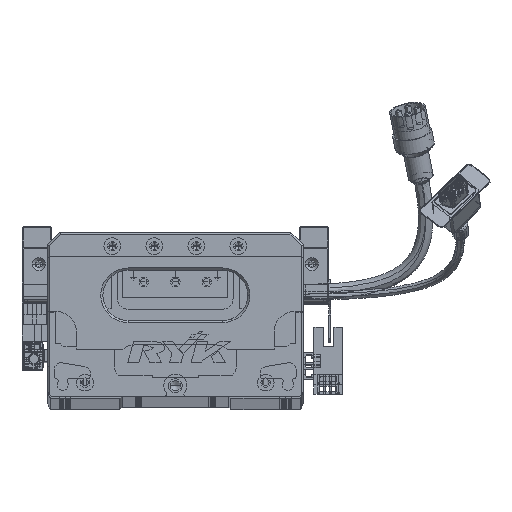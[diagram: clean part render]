
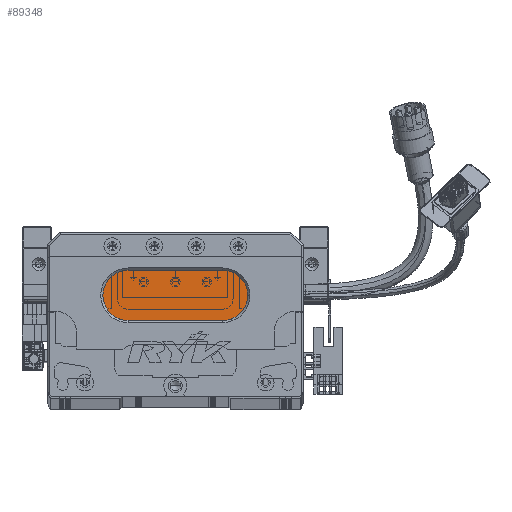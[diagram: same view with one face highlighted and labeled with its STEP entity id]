
A CAD part, top view. The second image highlights one B-rep face of the part: STEP entity #89348.
In plain terms, the highlighted planar face has unit normal (0, 0, 1) as drawn and (0, 0, -1) by its records, which use the part's own axes.
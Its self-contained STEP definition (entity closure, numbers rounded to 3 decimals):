
#5795 = CARTESIAN_POINT ( 'NONE',  ( 83.5, 60., 13. ) ) ;
#10349 = EDGE_CURVE ( 'NONE', #84270, #45431, #19674, .T. ) ;
#10850 = AXIS2_PLACEMENT_3D ( 'NONE', #23715, #74340, #21923 ) ;
#15604 = CARTESIAN_POINT ( 'NONE',  ( 38.5, 48., 13. ) ) ;
#16642 = VERTEX_POINT ( 'NONE', #21181 ) ;
#19674 = LINE ( 'NONE', #31829, #103506 ) ;
#21181 = CARTESIAN_POINT ( 'NONE',  ( 83.5, 36., 13. ) ) ;
#21923 = DIRECTION ( 'NONE',  ( -1., 0., 0. ) ) ;
#23715 = CARTESIAN_POINT ( 'NONE',  ( 83.5, 48., 13. ) ) ;
#24860 = VERTEX_POINT ( 'NONE', #42463 ) ;
#31184 = ORIENTED_EDGE ( 'NONE', *, *, #118141, .T. ) ;
#31393 = VERTEX_POINT ( 'NONE', #43996 ) ;
#31482 = CIRCLE ( 'NONE', #117341, 12. ) ;
#31829 = CARTESIAN_POINT ( 'NONE',  ( 83.5, 60., 13. ) ) ;
#34026 = CIRCLE ( 'NONE', #114313, 12. ) ;
#34674 = DIRECTION ( 'NONE',  ( -1., 0., 0. ) ) ;
#41848 = ORIENTED_EDGE ( 'NONE', *, *, #88044, .T. ) ;
#42463 = CARTESIAN_POINT ( 'NONE',  ( 38.5, 36., 13. ) ) ;
#43996 = CARTESIAN_POINT ( 'NONE',  ( 26.5, 48., 13. ) ) ;
#45431 = VERTEX_POINT ( 'NONE', #5795 ) ;
#47420 = EDGE_CURVE ( 'NONE', #16642, #24860, #59767, .T. ) ;
#52247 = CARTESIAN_POINT ( 'NONE',  ( 38.5, 48., 13. ) ) ;
#59767 = LINE ( 'NONE', #119638, #127146 ) ;
#61262 = ORIENTED_EDGE ( 'NONE', *, *, #47420, .T. ) ;
#74340 = DIRECTION ( 'NONE',  ( 0., 0., -1. ) ) ;
#81817 = DIRECTION ( 'NONE',  ( -1., 0., 0. ) ) ;
#83657 = EDGE_CURVE ( 'NONE', #31393, #84270, #34026, .T. ) ;
#84270 = VERTEX_POINT ( 'NONE', #86479 ) ;
#85175 = EDGE_LOOP ( 'NONE', ( #41848, #61262, #31184, #127079, #123483 ) ) ;
#86479 = CARTESIAN_POINT ( 'NONE',  ( 38.5, 60., 13. ) ) ;
#86704 = PLANE ( 'NONE',  #10850 ) ;
#88044 = EDGE_CURVE ( 'NONE', #45431, #16642, #31482, .T. ) ;
#89166 = DIRECTION ( 'NONE',  ( -1., 0., 0. ) ) ;
#89348 = ADVANCED_FACE ( 'NONE', ( #136422 ), #86704, .T. ) ;
#91271 = AXIS2_PLACEMENT_3D ( 'NONE', #52247, #94925, #135806 ) ;
#94925 = DIRECTION ( 'NONE',  ( 0., 0., -1. ) ) ;
#98813 = DIRECTION ( 'NONE',  ( 0., 0., -1. ) ) ;
#103506 = VECTOR ( 'NONE', #114949, 1000. ) ;
#113936 = CARTESIAN_POINT ( 'NONE',  ( 83.5, 48., 13. ) ) ;
#114313 = AXIS2_PLACEMENT_3D ( 'NONE', #15604, #98813, #89166 ) ;
#114949 = DIRECTION ( 'NONE',  ( 1., 0., 0. ) ) ;
#117341 = AXIS2_PLACEMENT_3D ( 'NONE', #113936, #134651, #81817 ) ;
#118141 = EDGE_CURVE ( 'NONE', #24860, #31393, #135844, .T. ) ;
#119638 = CARTESIAN_POINT ( 'NONE',  ( 83.5, 36., 13. ) ) ;
#123483 = ORIENTED_EDGE ( 'NONE', *, *, #10349, .T. ) ;
#127079 = ORIENTED_EDGE ( 'NONE', *, *, #83657, .T. ) ;
#127146 = VECTOR ( 'NONE', #34674, 1000. ) ;
#134651 = DIRECTION ( 'NONE',  ( 0., 0., -1. ) ) ;
#135806 = DIRECTION ( 'NONE',  ( -1., 0., 0. ) ) ;
#135844 = CIRCLE ( 'NONE', #91271, 12. ) ;
#136422 = FACE_OUTER_BOUND ( 'NONE', #85175, .T. ) ;
